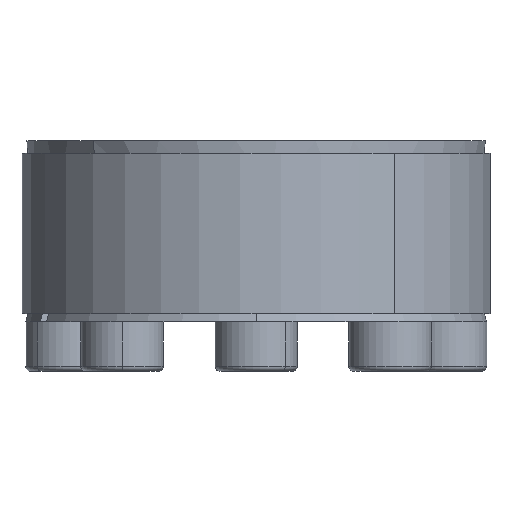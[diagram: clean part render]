
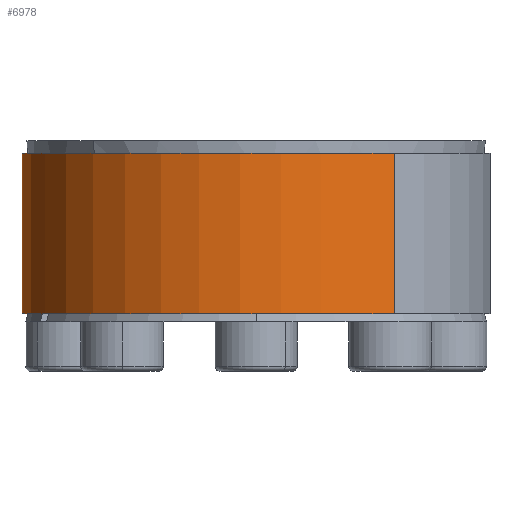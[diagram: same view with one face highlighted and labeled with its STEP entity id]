
A CAD part, left-side view. The second image highlights one B-rep face of the part: STEP entity #6978.
In plain terms, the highlighted cylindrical face has radius 28.485 mm (diameter 56.97 mm), a partial arc.
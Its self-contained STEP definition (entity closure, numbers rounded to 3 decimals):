
#225 = ORIENTED_EDGE ( 'NONE', *, *, #5559, .F. ) ;
#247 = VERTEX_POINT ( 'NONE', #1252 ) ;
#411 = ORIENTED_EDGE ( 'NONE', *, *, #3118, .T. ) ;
#515 = ORIENTED_EDGE ( 'NONE', *, *, #10820, .T. ) ;
#1065 = CIRCLE ( 'NONE', #3002, 28.485 ) ;
#1165 = CARTESIAN_POINT ( 'NONE',  ( 0., 0., 0.984 ) ) ;
#1242 = EDGE_CURVE ( 'NONE', #7548, #247, #10240, .T. ) ;
#1252 = CARTESIAN_POINT ( 'NONE',  ( -23.045, -16.743, 20.484 ) ) ;
#1560 = LINE ( 'NONE', #7154, #3847 ) ;
#2147 = DIRECTION ( 'NONE',  ( -0.809, -0.588, 0. ) ) ;
#2235 = VERTEX_POINT ( 'NONE', #8472 ) ;
#2426 = DIRECTION ( 'NONE',  ( 0.809, 0.588, 0. ) ) ;
#2780 = EDGE_LOOP ( 'NONE', ( #225, #4024, #515, #411 ) ) ;
#3002 = AXIS2_PLACEMENT_3D ( 'NONE', #1165, #7979, #2147 ) ;
#3118 = EDGE_CURVE ( 'NONE', #3170, #2235, #1065, .T. ) ;
#3170 = VERTEX_POINT ( 'NONE', #4178 ) ;
#3300 = FACE_OUTER_BOUND ( 'NONE', #2780, .T. ) ;
#3847 = VECTOR ( 'NONE', #6251, 1000. ) ;
#4024 = ORIENTED_EDGE ( 'NONE', *, *, #1242, .F. ) ;
#4178 = CARTESIAN_POINT ( 'NONE',  ( 23.045, 16.743, 0.984 ) ) ;
#4342 = DIRECTION ( 'NONE',  ( 0., 0., -1. ) ) ;
#4568 = DIRECTION ( 'NONE',  ( 0., 0., -1. ) ) ;
#4643 = CYLINDRICAL_SURFACE ( 'NONE', #6040, 28.485 ) ;
#4666 = CARTESIAN_POINT ( 'NONE',  ( 23.045, 16.743, 20.484 ) ) ;
#4860 = DIRECTION ( 'NONE',  ( 0., 0., 1. ) ) ;
#5559 = EDGE_CURVE ( 'NONE', #247, #2235, #11321, .T. ) ;
#6040 = AXIS2_PLACEMENT_3D ( 'NONE', #10159, #4342, #2426 ) ;
#6251 = DIRECTION ( 'NONE',  ( 0., 0., -1. ) ) ;
#6978 = ADVANCED_FACE ( 'NONE', ( #3300 ), #4643, .T. ) ;
#7154 = CARTESIAN_POINT ( 'NONE',  ( 23.045, 16.743, 20.484 ) ) ;
#7548 = VERTEX_POINT ( 'NONE', #4666 ) ;
#7979 = DIRECTION ( 'NONE',  ( 0., 0., 1. ) ) ;
#8447 = CARTESIAN_POINT ( 'NONE',  ( -23.045, -16.743, 20.484 ) ) ;
#8469 = VECTOR ( 'NONE', #4568, 1000. ) ;
#8472 = CARTESIAN_POINT ( 'NONE',  ( -23.045, -16.743, 0.984 ) ) ;
#10159 = CARTESIAN_POINT ( 'NONE',  ( 0., 0., 20.484 ) ) ;
#10240 = CIRCLE ( 'NONE', #11414, 28.485 ) ;
#10679 = CARTESIAN_POINT ( 'NONE',  ( 0., 0., 20.484 ) ) ;
#10820 = EDGE_CURVE ( 'NONE', #7548, #3170, #1560, .T. ) ;
#11321 = LINE ( 'NONE', #8447, #8469 ) ;
#11414 = AXIS2_PLACEMENT_3D ( 'NONE', #10679, #4860, #11659 ) ;
#11659 = DIRECTION ( 'NONE',  ( -0.809, -0.588, 0. ) ) ;
